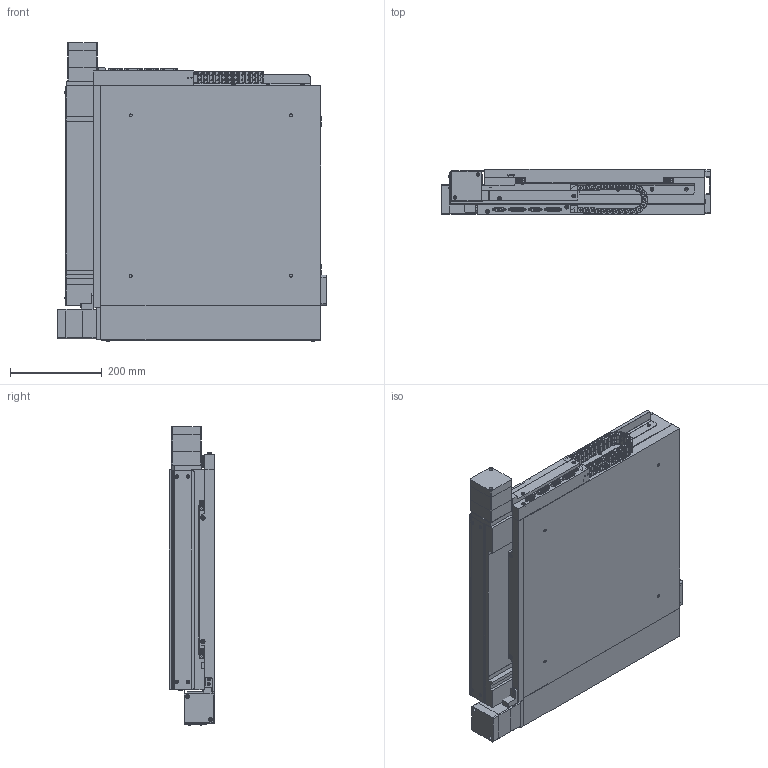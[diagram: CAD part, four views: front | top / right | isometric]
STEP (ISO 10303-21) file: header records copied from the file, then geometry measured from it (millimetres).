
FILE_DESCRIPTION (( 'STEP AP214' ), '1' );
FILE_NAME ('GXY-360-Rotary Encoder-EXPORT.STEP', '2025-07-08T14:02:26', ( 'lab' ), ( '' ), 'SwSTEP 2.0', 'SolidWorks 2018', '' );
FILE_SCHEMA (( 'AUTOMOTIVE_DESIGN' ));
Length unit declared in the file: millimetre
Products named in the file (16): 1000006_file_export15; 1000014_file_export49; 1000001_360; GXY-360-Rotary Encoder-EXPORT; 1000010; 1000007_file_export7; 1000011; 1000009_91239A109; 1000015_file_export52; 1000008; 1000004_file_export6; 1000012_file_export22; 1000016_file_export47; 1000013_file_export21; 1000002_360; 1000003_file_export4
Assembly tree (58 placements, depth 2):
  GXY-360-Rotary Encoder-EXPORT
    1000001_360
    1000002_360
    1000003_file_export4
    1000004_file_export6  x2
    1000006_file_export15  x6
    1000007_file_export7
    1000008
    1000009_91239A109  x4
    1000010
    1000011  x24
    1000012_file_export22  x2
    1000013_file_export21  x2
    1000014_file_export49  x8
    1000015_file_export52  x2
    1000016_file_export47  x2
Bounding box: 586 x 99 x 652.14 mm (x, y, z)
Volume: 28166597.4 mm3; surface area: 2738251.7 mm2
Topology: 174 solids, 174 shells, 6297 faces, 15548 edges, 9765 vertices
Faces by surface type: plane 3811, cylinder 1732, cone 384, bspline 340, torus 30
Entity records: 93927 total; most frequent: CARTESIAN_POINT 20106, DIRECTION 13705, ORIENTED_EDGE 13172, EDGE_CURVE 6586, AXIS2_PLACEMENT_3D 4625, VECTOR 4455, LINE 4455, VERTEX_POINT 4066
